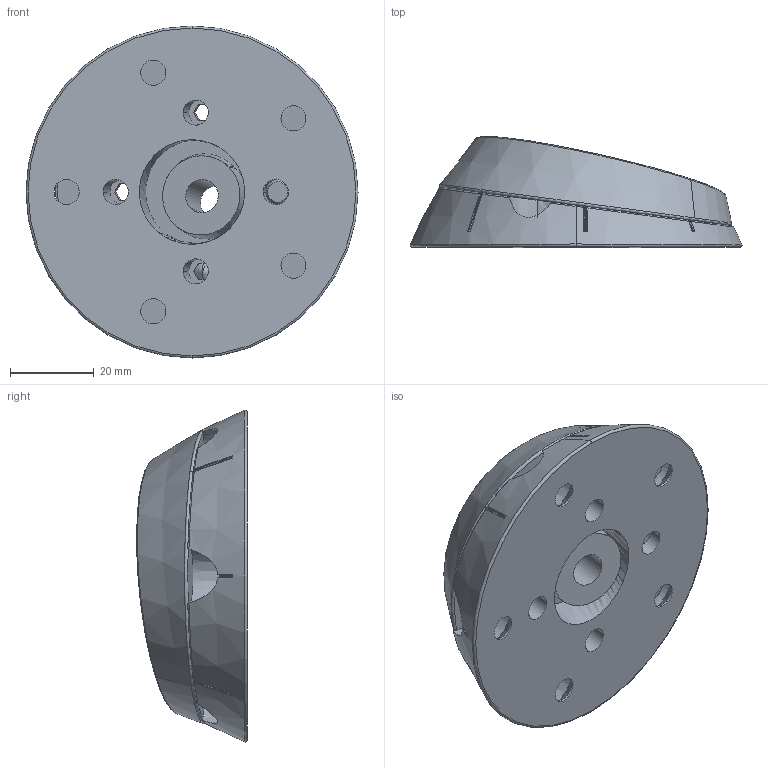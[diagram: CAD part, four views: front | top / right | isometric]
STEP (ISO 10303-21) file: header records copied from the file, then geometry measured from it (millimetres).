
FILE_DESCRIPTION (( 'STEP AP203' ), '1' );
FILE_NAME ('06.11.130-0 Twistn Turn 13,5dg_Ext. faces.STEP', '2021-03-08T11:02:07', ( '' ), ( '' ), 'SwSTEP 2.0', 'SolidWorks 2020', '' );
FILE_SCHEMA (( 'CONFIG_CONTROL_DESIGN' ));
Length unit declared in the file: millimetre
Products named in the file (1): 06.11.130-0 Twistn Turn 13,5dg_Ext. faces
Bounding box: 79.43 x 26.49 x 79.43 mm (x, y, z)
Surface area: 24108.9 mm2 (no closed solid volume)
Topology: 0 solids, 7 shells, 261 faces, 750 edges, 481 vertices
Faces by surface type: bspline 81, cone 69, plane 56, cylinder 50, torus 5
Entity records: 11929 total; most frequent: CARTESIAN_POINT 5883, ORIENTED_EDGE 1357, DIRECTION 1055, EDGE_CURVE 746, VERTEX_POINT 481, AXIS2_PLACEMENT_3D 417, EDGE_LOOP 304, FACE_OUTER_BOUND 261
